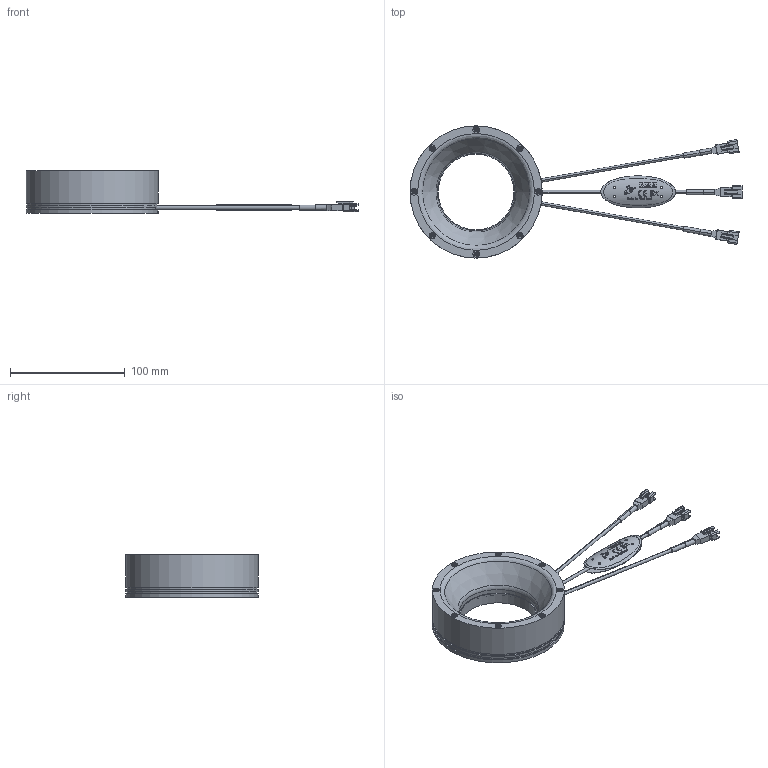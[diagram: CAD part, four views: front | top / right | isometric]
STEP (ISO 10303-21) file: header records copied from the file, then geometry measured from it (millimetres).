
FILE_DESCRIPTION( ('This file contains a STEP AP42 implementation' ,'as created by ZW3D STEP Interface translator.') ,'2;1' );
FILE_NAME( 'VMR-11566RGB_DRAWING_3D_Rev.011.stp' ,'25 911.143148', (''), ('ZWCAD Software Co.'), 'Version 1.0', 'ZW3D to STEP translator', '' );
FILE_SCHEMA(('AUTOMOTIVE_DESIGN { 1 0 10303 214 1 1 1 1 }'));
Length unit declared in the file: millimetre
Products named in the file (1): 0
Bounding box: 288.97 x 115 x 37.25 mm (x, y, z)
Volume: 145245.3 mm3; surface area: 75697 mm2
Topology: 5 solids, 22 shells, 927 faces, 2642 edges, 1835 vertices
Faces by surface type: plane 551, cylinder 306, cone 23, torus 17, sphere 16, bspline 14
Full cylindrical faces by diameter (mm): 1.6 x16, 2 x8, 2.5 x16, 3.5 x16, 66 x1, 67.6 x1, 68 x1, 71 x1, 72.4 x1, 74 x1, 99 x1, 113 x1, 115 x2
Entity records: 33146 total; most frequent: CARTESIAN_POINT 8109, ORIENTED_EDGE 5248, DIRECTION 4645, EDGE_CURVE 2622, VERTEX_POINT 1835, VECTOR 1609, LINE 1609, AXIS2_PLACEMENT_3D 1518
